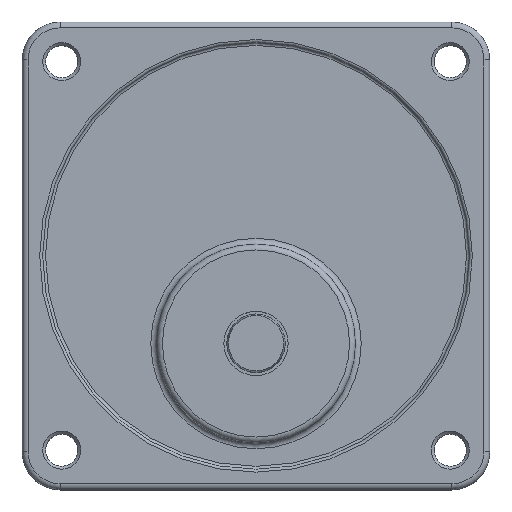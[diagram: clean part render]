
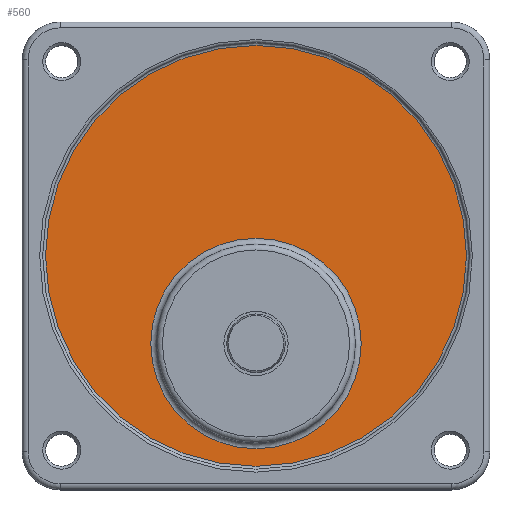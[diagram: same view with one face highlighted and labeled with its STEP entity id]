
A CAD part, top view. The second image highlights one B-rep face of the part: STEP entity #560.
In plain terms, the highlighted planar face has unit normal (0, 0, 1).
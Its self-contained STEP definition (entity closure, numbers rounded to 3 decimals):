
#509=CARTESIAN_POINT('',(58.,25.0,31.0));
#510=VERTEX_POINT('',#509);
#511=CARTESIAN_POINT('',(40.,25.0,31.0));
#512=DIRECTION('',(0.0,0.0,1.0));
#513=DIRECTION('',(-1.0,0.0,0.0));
#514=AXIS2_PLACEMENT_3D('',#511,#512,#513);
#515=CIRCLE('',#514,18.);
#516=EDGE_CURVE('',#510,#510,#515,.T.);
#541=CARTESIAN_POINT('',(40.,40.0,31.0));
#542=DIRECTION('',(0.0,0.0,-1.0));
#543=DIRECTION('',(-1.0,0.0,0.0));
#544=AXIS2_PLACEMENT_3D('',#541,#542,#543);
#545=PLANE('',#544);
#546=CARTESIAN_POINT('',(76.,40.,31.0));
#547=VERTEX_POINT('',#546);
#548=CARTESIAN_POINT('',(40.,40.0,31.0));
#549=DIRECTION('',(0.0,0.0,-1.0));
#550=DIRECTION('',(-1.0,0.0,0.0));
#551=AXIS2_PLACEMENT_3D('',#548,#549,#550);
#552=CIRCLE('',#551,36.);
#553=EDGE_CURVE('',#547,#547,#552,.T.);
#554=ORIENTED_EDGE('',*,*,#553,.F.);
#555=EDGE_LOOP('',(#554));
#556=FACE_OUTER_BOUND('',#555,.T.);
#557=ORIENTED_EDGE('',*,*,#516,.F.);
#558=EDGE_LOOP('',(#557));
#559=FACE_BOUND('',#558,.T.);
#560=ADVANCED_FACE('',(#556,#559),#545,.F.);
